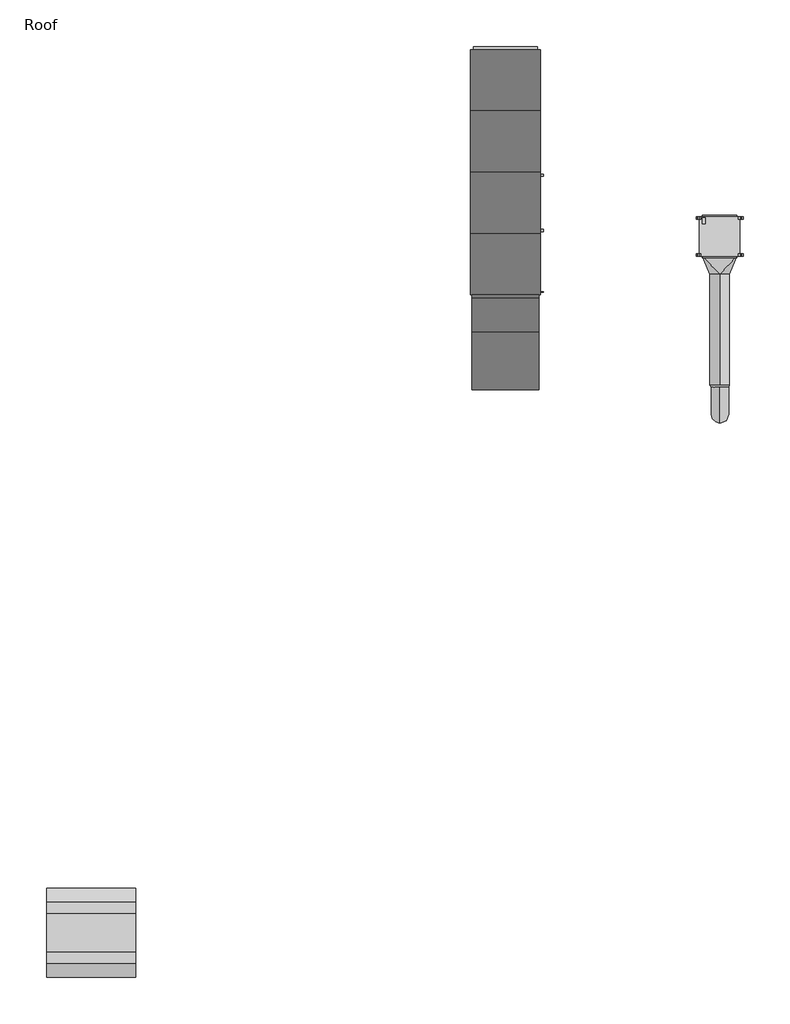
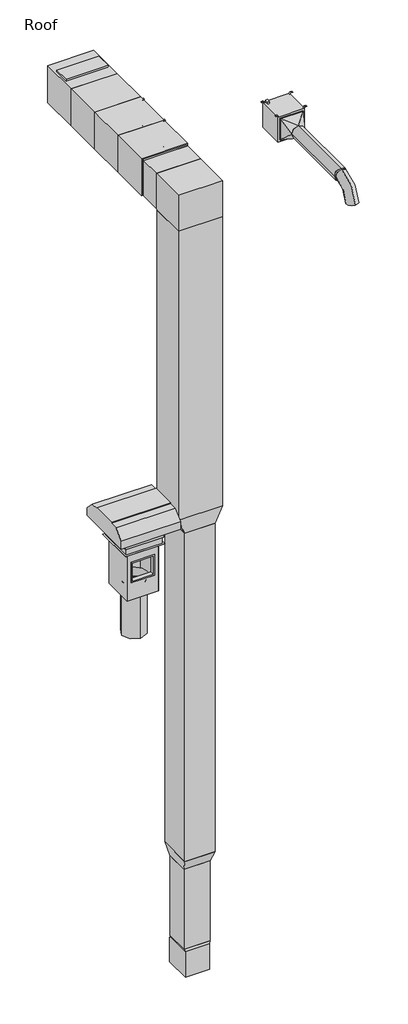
# One storey: 8 duct fittings, 6 duct segments, 3 proxies.
"""IFC4 building model written with IfcOpenShell, lengths in millimetres."""

from ifc_helpers import new_model, si_unit, point, frame, frame_2d, origin, place, context, project, spatial, polyline, circle_curve, trimmed, segment, composite_curve, outline, extrude, transform, mapped, element, save
from components import mechanical_equipment_4f591df0, mechanical_equipment_20390795, outdoor_ahu_horizontal_6_square_feet_of_coil_602b6582, rectangular_elbow_mitered_standard_1b68add7, rectangular_elbow_mitered_standard_7a6b55a4, rectangular_transition_angle_45_degree_4db88495, rectangular_transition_angle_45_degree_781d75e2, rectangular_transition_angle_45_degree_8235ca17, rectangular_to_round_transition_angle_45_degree_ca064078, round_elbow_1_5_d_ee9da881, round_transition_angle_45_degree_53d512dd

model = new_model("IFC4")

# Units and contexts
model_context = context("Model", 3, world=origin())
ifc_project = project(units=[si_unit("LENGTHUNIT", "METRE", prefix="MILLI")], contexts=[model_context])

# Site, building, storey
site = spatial("IfcSite", under=ifc_project)
building = spatial("IfcBuilding", under=site)
storey = spatial("IfcBuildingStorey", under=building, Name="Roof", Elevation=22555.2)

# Proxies
placement = place(None, origin())
mechanical_equipment_shape = mechanical_equipment_4f591df0(model_context)
element("IfcBuildingElementProxy", 1, Name="Fan-Exhaust-CaptiveAire-Centrifugal_Inline_Direct_Drive : SIDD-165", ObjectType="Fan-Exhaust-CaptiveAire-Centrifugal_Inline_Direct_Drive : SIDD-165", at=placement, inside=storey, context=model_context, shape_type="MappedRepresentation", body=[
    mapped(mechanical_equipment_shape, transform((-1499.7801092, 10402.4641315, 22555.25), x_axis=(0.0, 1.0000000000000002, 0.0), y_axis=(-1.0000000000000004, 0.0, 0.0), z_axis=(0.0, 0.0, 1.0000000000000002))),
])
mechanical_equipment_2_shape = mechanical_equipment_20390795(model_context)
element("IfcBuildingElementProxy", 2, Name="MRSE-D : 24_MRSE-D", ObjectType="MRSE-D : 24_MRSE-D", at=placement, inside=storey, context=model_context, shape_type="MappedRepresentation", body=[
    mapped(mechanical_equipment_2_shape, transform((-12042.9807361, -1282.0394362, 22555.2), x_axis=(0.0, 1.0, 0.0), y_axis=(-1.0, 0.0, 0.0), z_axis=(0.0, 0.0, 1.0))),
])
outdoor_ahu_horizontal_6_square_feet_of_coil_shape = outdoor_ahu_horizontal_6_square_feet_of_coil_602b6582(model_context)
element("IfcBuildingElementProxy", 3, Name="Outdoor AHU - Horizontal : 6 Square Feet of Coil", ObjectType="Outdoor AHU - Horizontal : 6 Square Feet of Coil", at=placement, inside=storey, context=model_context, shape_type="MappedRepresentation", body=[
    mapped(outdoor_ahu_horizontal_6_square_feet_of_coil_shape, transform((-5092.2679456, 13536.3957375, 22860.0), x_axis=(0.0, -1.0, 0.0), y_axis=(1.0, 0.0, 0.0), z_axis=(0.0, 0.0, 1.0))),
])

# Duct fittings
rectangular_elbow_mitered_standard_shape = rectangular_elbow_mitered_standard_1b68add7(model_context)
element("IfcDuctFitting", 4, ObjectType="Rectangular Elbow - Mitered : Standard", at=placement, inside=storey, context=model_context, shape_type="MappedRepresentation", body=[
    mapped(rectangular_elbow_mitered_standard_shape, transform((-5092.2679456, 8303.9957375, 23355.3), x_axis=(0.0, -1.0, 0.0), y_axis=(0.0, 0.0, -1.0), z_axis=(1.0, 0.0, 0.0))),
])
rectangular_elbow_mitered_standard_2_shape = rectangular_elbow_mitered_standard_7a6b55a4(model_context)
element("IfcDuctFitting", 5, ObjectType="Rectangular Elbow - Mitered : Standard", at=placement, inside=storey, context=model_context, shape_type="MappedRepresentation", body=[
    mapped(rectangular_elbow_mitered_standard_2_shape, transform((-5092.2679456, 8303.9957375, 3048.0), x_axis=(0.0, 0.0, -1.0), y_axis=(0.0, 1.0, 0.0), z_axis=(1.0, 0.0, 0.0))),
])
rectangular_transition_angle_45_degree_shape = rectangular_transition_angle_45_degree_4db88495(model_context)
element("IfcDuctFitting", 6, ObjectType="Rectangular Transition - Angle : 45 Degree", at=placement, inside=storey, context=model_context, shape_type="MappedRepresentation", body=[
    mapped(rectangular_transition_angle_45_degree_shape, transform((-5092.2679456, 8303.9957375, 15125.7), x_axis=(0.0, 0.0, -1.0), y_axis=(1.0, 0.0, 0.0), z_axis=(0.0, -1.0, 0.0))),
])
rectangular_transition_angle_45_degree_2_shape = rectangular_transition_angle_45_degree_781d75e2(model_context)
element("IfcDuctFitting", 7, ObjectType="Rectangular Transition - Angle : 45 Degree", at=placement, inside=storey, context=model_context, shape_type="MappedRepresentation", body=[
    mapped(rectangular_transition_angle_45_degree_2_shape, transform((-5092.2679456, 8303.9957375, 5602.2527203), x_axis=(0.0, 0.0, 1.0), y_axis=(0.0, 1.0, 0.0), z_axis=(-1.0, 0.0, 0.0))),
])
rectangular_transition_angle_45_degree_3_shape = rectangular_transition_angle_45_degree_8235ca17(model_context)
element("IfcDuctFitting", 8, ObjectType="Rectangular Transition - Angle : 45 Degree", at=placement, inside=storey, context=model_context, shape_type="MappedRepresentation", body=[
    mapped(rectangular_transition_angle_45_degree_3_shape, transform((-5092.2679456, 8303.9957375, 3463.7553391), x_axis=(0.0, 0.0, -1.0), y_axis=(0.0, -1.0, 0.0), z_axis=(-1.0, 0.0, 0.0))),
])
rectangular_to_round_transition_angle_45_degree_shape = rectangular_to_round_transition_angle_45_degree_ca064078(model_context)
element("IfcDuctFitting", 9, ObjectType="Rectangular to Round Transition - Angle : 45 Degree", at=placement, inside=storey, context=model_context, shape_type="MappedRepresentation", body=[
    mapped(rectangular_to_round_transition_angle_45_degree_shape, transform((-1499.7801092, 10072.2641315, 22891.8), x_axis=(0.0, -1.0, 0.0), y_axis=(1.0, 0.0, 0.0), z_axis=(0.0, 0.0, 1.0))),
])
round_elbow_1_5_d_shape = round_elbow_1_5_d_ee9da881(model_context)
element("IfcDuctFitting", 10, ObjectType="Round Elbow : 1.5 D", at=placement, inside=storey, context=model_context, shape_type="MappedRepresentation", body=[
    mapped(round_elbow_1_5_d_shape, transform((-1492.3180818, 7422.2278716, 22891.8), x_axis=(0.0, -1.0, 0.0), y_axis=(0.0, 0.0, -1.0), z_axis=(1.0, 0.0, 0.0))),
])
round_transition_angle_45_degree_shape = round_transition_angle_45_degree_53d512dd(model_context)
element("IfcDuctFitting", 11, ObjectType="Round Transition - Angle : 45 Degree", at=placement, inside=storey, context=model_context, shape_type="MappedRepresentation", body=[
    mapped(round_transition_angle_45_degree_shape, transform((-1499.7801092, 7907.0853173, 22891.8), x_axis=(0.0, -1.0, 0.0), y_axis=(1.0, 0.0, 0.0), z_axis=(0.0, 0.0, 1.0))),
])

# Duct segments
element("IfcDuctSegment", 12, ObjectType="Mitered Elbows / Tees", at=placement, inside=storey, context=model_context, shape_type="SweptSolid", body=[
    extrude(outline(polyline([(-5651.0679456, 9370.7957375), (-4533.4679456, 9370.7957375), (-4533.4679456, 8799.2957375), (-5651.0679456, 8799.2957375), (-5651.0679456, 9370.7957375)])), frame((0.0, 0.0, 22885.4), z_axis=(0.0, 0.0, 1.0), x_axis=(1.0, 0.0, 0.0)), (0.0, 0.0, 1.0), 939.8),
])
element("IfcDuctSegment", 13, ObjectType="Mitered Elbows / Tees", at=placement, inside=storey, context=model_context, shape_type="SweptSolid", body=[
    extrude(outline(polyline([(-4533.4679456, 8773.8957375), (-4533.4679456, 7834.0957375), (-5651.0679456, 7834.0957375), (-5651.0679456, 8773.8957375), (-4533.4679456, 8773.8957375)])), frame((0.0, 0.0, 15125.7), z_axis=(0.0, 0.0, 1.0), x_axis=(1.0, 0.0, 0.0)), (0.0, 0.0, 1.0), 7734.3),
])
element("IfcDuctSegment", 14, ObjectType="Mitered Elbows / Tees", at=placement, inside=storey, context=model_context, shape_type="SweptSolid", body=[
    extrude(outline(polyline([(-4762.2679456, 7998.9957375), (-5422.2679456, 7998.9957375), (-5422.2679456, 8608.9957375), (-4762.2679456, 8608.9957375), (-4762.2679456, 7998.9957375)])), frame((0.0, 0.0, 3463.7553391), z_axis=(0.0, 0.0, 1.0), x_axis=(1.0, 0.0, 0.0)), (0.0, 0.0, 1.0), 2138.4973812),
])
element("IfcDuctSegment", 15, ObjectType="Mitered Elbows / Tees", at=placement, inside=storey, context=model_context, shape_type="SweptSolid", body=[
    extrude(outline(polyline([(-4711.2679456, 7872.1957375), (-5473.2679456, 7872.1957375), (-5473.2679456, 8735.7957375), (-4711.2679456, 8735.7957375), (-4711.2679456, 7872.1957375)])), frame((0.0, 0.0, 5908.375), z_axis=(0.0, 0.0, 1.0), x_axis=(1.0, 0.0, 0.0)), (0.0, 0.0, 1.0), 8788.0778286),
])
element("IfcDuctSegment", 16, ObjectType="Taps", at=placement, inside=storey, context=model_context, shape_type="SweptSolid", body=[
    extrude(outline(composite_curve([segment(trimmed(circle_curve(frame_2d((-12042.9807361, -1271.7419642)), 304.8), [point((-12042.9807361, -966.9419642))], [point((-11738.1807361, -1271.7419642))], False, "CARTESIAN"), True, "CONTINUOUS"), segment(trimmed(circle_curve(frame_2d((-12042.9807361, -1271.7419642)), 304.8), [point((-11738.1807361, -1271.7419642))], [point((-12042.9807361, -1576.5419642))], False, "CARTESIAN"), True, "CONTINUOUS"), segment(trimmed(circle_curve(frame_2d((-12042.9807361, -1271.7419642)), 304.8), [point((-12042.9807361, -1576.5419642))], [point((-12347.7807361, -1271.7419642))], False, "CARTESIAN"), True, "CONTINUOUS"), segment(trimmed(circle_curve(frame_2d((-12042.9807361, -1271.7419642)), 304.8), [point((-12347.7807361, -1271.7419642))], [point((-12042.9807361, -966.9419642))], False, "CARTESIAN"), True, "CONTINUOUS")], self_intersect=False)), frame((0.0, 0.0, 19919.9811796), z_axis=(0.0, 0.0, 1.0), x_axis=(1.0, 0.0, 0.0)), (0.0, 0.0, 1.0), 1257.2688204),
])
element("IfcDuctSegment", 17, ObjectType="Taps", at=placement, inside=storey, context=model_context, shape_type="SweptSolid", body=[
    extrude(outline(composite_curve([segment(trimmed(circle_curve(frame_2d((22891.8, -1499.7801092)), 165.0), [point((22891.8, -1664.7801092))], [point((22726.8, -1499.7801092))], False, "CARTESIAN"), True, "CONTINUOUS"), segment(trimmed(circle_curve(frame_2d((22891.8, -1499.7801092)), 165.0), [point((22726.8, -1499.7801092))], [point((22891.8, -1334.7801092))], False, "CARTESIAN"), True, "CONTINUOUS"), segment(trimmed(circle_curve(frame_2d((22891.8, -1499.7801092)), 165.0), [point((22891.8, -1334.7801092))], [point((23056.8, -1499.7801092))], False, "CARTESIAN"), True, "CONTINUOUS"), segment(trimmed(circle_curve(frame_2d((22891.8, -1499.7801092)), 165.0), [point((23056.8, -1499.7801092))], [point((22891.8, -1664.7801092))], False, "CARTESIAN"), True, "CONTINUOUS")], self_intersect=False)), frame((0.0, 7907.0853173, 0.0), z_axis=(0.0, 1.0, 0.0), x_axis=(0.0, 0.0, 1.0)), (0.0, 0.0, 1.0), 1862.1648345),
])

save(model, "model.ifc")
